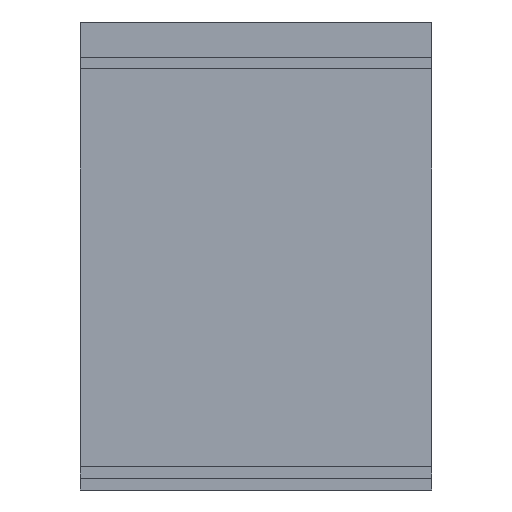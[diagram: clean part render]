
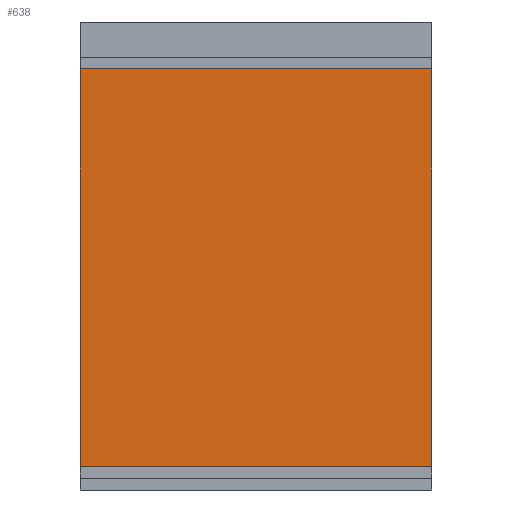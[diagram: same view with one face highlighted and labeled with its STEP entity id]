
A CAD part, front view. The second image highlights one B-rep face of the part: STEP entity #638.
In plain terms, the highlighted planar face has unit normal (0, -1, 0).
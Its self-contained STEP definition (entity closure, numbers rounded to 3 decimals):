
#61=PLANE('',#709);
#94=FACE_OUTER_BOUND('',#132,.T.);
#132=EDGE_LOOP('',(#510,#511,#512,#513));
#175=LINE('',#973,#243);
#179=LINE('',#985,#247);
#181=LINE('',#988,#249);
#182=LINE('',#990,#250);
#243=VECTOR('',#792,10.);
#247=VECTOR('',#804,10.);
#249=VECTOR('',#808,10.);
#250=VECTOR('',#811,10.);
#324=VERTEX_POINT('',#970);
#325=VERTEX_POINT('',#972);
#328=VERTEX_POINT('',#982);
#329=VERTEX_POINT('',#984);
#387=EDGE_CURVE('',#324,#325,#175,.T.);
#393=EDGE_CURVE('',#328,#329,#179,.T.);
#395=EDGE_CURVE('',#325,#328,#181,.T.);
#396=EDGE_CURVE('',#329,#324,#182,.T.);
#510=ORIENTED_EDGE('',*,*,#393,.F.);
#511=ORIENTED_EDGE('',*,*,#395,.F.);
#512=ORIENTED_EDGE('',*,*,#387,.F.);
#513=ORIENTED_EDGE('',*,*,#396,.F.);
#638=ADVANCED_FACE('',(#94),#61,.F.);
#709=AXIS2_PLACEMENT_3D('',#991,#812,#813);
#792=DIRECTION('',(0.,0.,-1.));
#804=DIRECTION('',(0.,0.,1.));
#808=DIRECTION('',(-1.,0.,0.));
#811=DIRECTION('',(1.,0.,0.));
#812=DIRECTION('center_axis',(0.,1.,0.));
#813=DIRECTION('ref_axis',(0.,0.,1.));
#970=CARTESIAN_POINT('',(1500.,0.,1600.));
#972=CARTESIAN_POINT('',(1500.,0.,-1800.));
#973=CARTESIAN_POINT('',(1500.,0.,2000.));
#982=CARTESIAN_POINT('',(-1500.,0.,-1800.));
#984=CARTESIAN_POINT('',(-1500.,0.,1600.));
#985=CARTESIAN_POINT('',(-1500.,0.,-2000.));
#988=CARTESIAN_POINT('',(1500.,0.,-1800.));
#990=CARTESIAN_POINT('',(-1500.,0.,1600.));
#991=CARTESIAN_POINT('Origin',(0.,0.,-100.));
